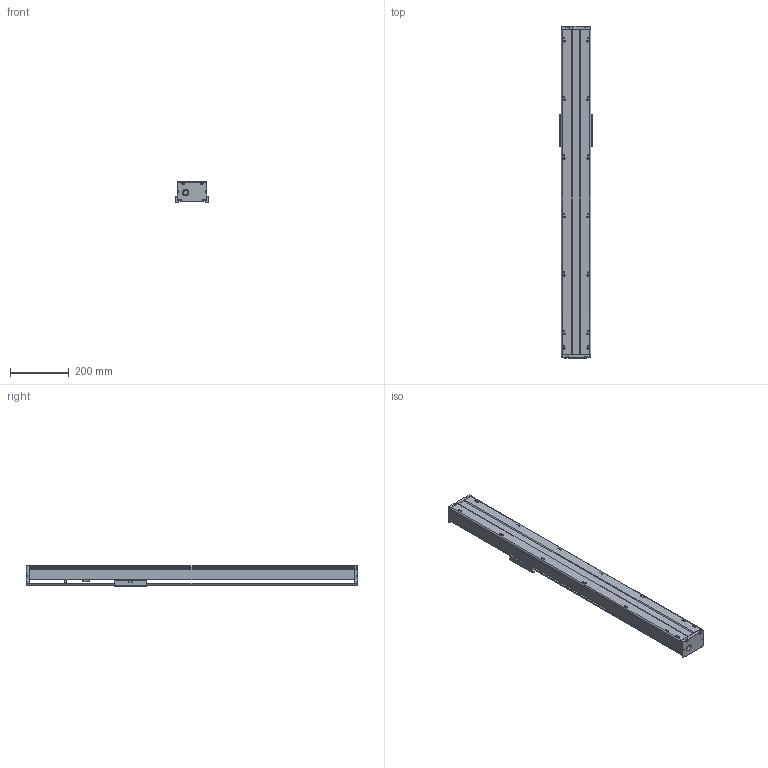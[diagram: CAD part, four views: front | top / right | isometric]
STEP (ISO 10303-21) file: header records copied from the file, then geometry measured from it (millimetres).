
FILE_DESCRIPTION(/* description */ (''),/* implementation_level */ '2;1');
FILE_NAME(/* name */ 'TKA100-750A1FI_asm1.stp',/* time_stamp */ '2017-02-21T08:57:49+08:00',/* author */ (''),/* organization */ (''),/* preprocessor_version */ 'ST-DEVELOPER v15',/* originating_system */ 'SIEMENS PLM Software NX 8.5',/* authorisation */ '');
FILE_SCHEMA (('AUTOMOTIVE_DESIGN { 1 0 10303 214 3 1 1 1 }'));
Length unit declared in the file: millimetre
Products named in the file (3): 200-02; 200-01; TKA100-750A1FI_asm1_stp
Assembly tree (2 placements, depth 2):
  TKA100-750A1FI_asm1_stp
    200-01
    200-02
Bounding box: 110 x 1134 x 71 mm (x, y, z)
Volume: 2364168.1 mm3; surface area: 769609.8 mm2
Topology: 2 solids, 9 shells, 869 faces, 2250 edges, 1427 vertices
Faces by surface type: plane 361, cylinder 297, cone 151, torus 34, bspline 26
Full cylindrical faces by diameter (mm): 2.5 x4, 2.6 x8, 3.3 x8, 3.4 x4, 3.8 x4, 4.2 x23, 4.3 x4, 4.5 x4, 5 x1, 5.5 x26, 6.6 x4, 8 x5, 9 x4, 10 x14, 11 x4, 12 x7, 15.3 x1, 16 x1, 22 x1, 24 x1, 28 x5, 30 x1
Entity records: 30828 total; most frequent: CARTESIAN_POINT 10632, DIRECTION 4196, ORIENTED_EDGE 3906, EDGE_CURVE 1953, AXIS2_PLACEMENT_3D 1626, VERTEX_POINT 1348, EDGE_LOOP 1175, LINE 944
